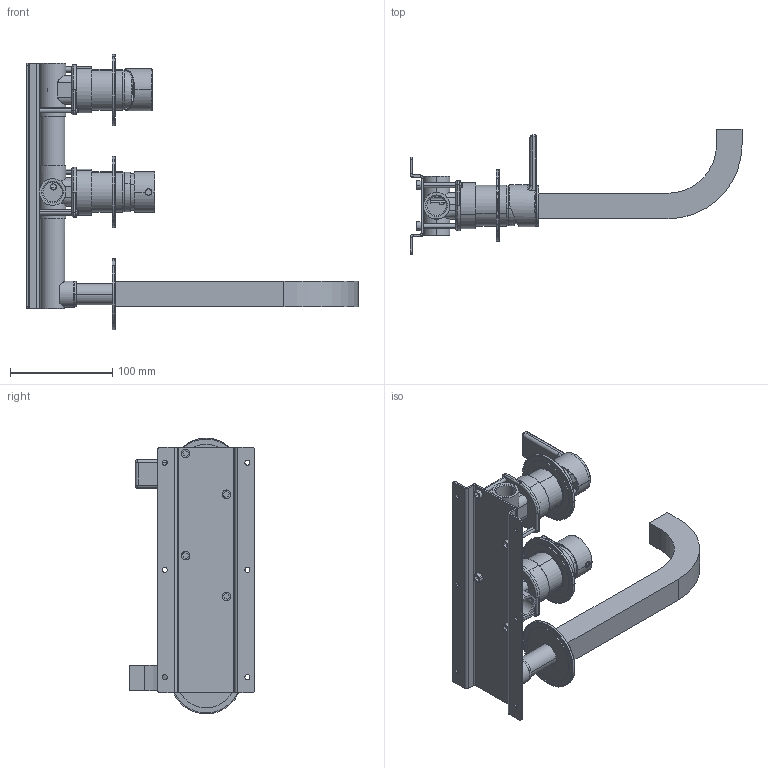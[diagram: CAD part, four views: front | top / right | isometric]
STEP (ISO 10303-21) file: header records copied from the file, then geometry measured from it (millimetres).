
FILE_DESCRIPTION (( 'STEP AP203' ), '1' );
FILE_NAME ('MCN82.STEP', '2024-03-14T08:17:28', ( '' ), ( '' ), 'SwSTEP 2.0', 'SolidWorks 2023', '' );
FILE_SCHEMA (( 'CONFIG_CONTROL_DESIGN' ));
Length unit declared in the file: millimetre
Products named in the file (32): C24.1993.00.0; C11.14.0009; C24.2664.00; IST80; ADATTATORE MEZZO; AS757_00; C12.00.0036; C25.1173.00.0; C24.2712.00; C47.00.0023.01; C23.1878.01; C10.00.0015; 1174; C25.1964.00.0; 1000; VITETC5x40; C24.1965.00.0; CAPP_0; C47.00.0015; C24.1992.00.0; C11.14.0007; C39.00.0032; C23.2074.00.1; 1174G; C12.00.0008; EROGATORE VASCA E DOCCIA; C12.00.0017; C10.00.0011; TUBO DI GIUNZIONE VASCA E DOCCIA; 405-40CPA GEDA; MCN82; C24.1966.00.0
Assembly tree (40 placements, depth 4):
  MCN82
    IST80
      405-40CPA GEDA
        1174G
        EROGATORE VASCA E DOCCIA
        TUBO DI GIUNZIONE VASCA E DOCCIA
        1174
        ADATTATORE MEZZO
      C24.1966.00.0
      C25.1964.00.0
      C24.1965.00.0  x2
      C12.00.0008
      C12.00.0017  x2
      1000  x2
      C47.00.0015  x2
      C10.00.0015
      C10.00.0011
      VITETC5x40  x4
      C24.1993.00.0
      CAPP_0
    AS757_00
      C24.1992.00.0
      C25.1173.00.0
      C23.1878.01
      C11.14.0009
      C11.14.0007
      C47.00.0023.01
    C23.2074.00.1
    C39.00.0032
    C12.00.0036  x2
    C24.2664.00  x2
    C24.2712.00
Bounding box: 325 x 122.5 x 269.91 mm (x, y, z)
Volume: 453862.6 mm3; surface area: 283411.4 mm2
Topology: 40 solids, 41 shells, 1455 faces, 3403 edges, 2124 vertices
Faces by surface type: plane 600, cylinder 561, cone 163, torus 121, bspline 10
Entity records: 38148 total; most frequent: CARTESIAN_POINT 7658, DIRECTION 6054, ORIENTED_EDGE 5276, EDGE_CURVE 2638, AXIS2_PLACEMENT_3D 2394, VERTEX_POINT 1648, EDGE_LOOP 1320, LINE 1266
